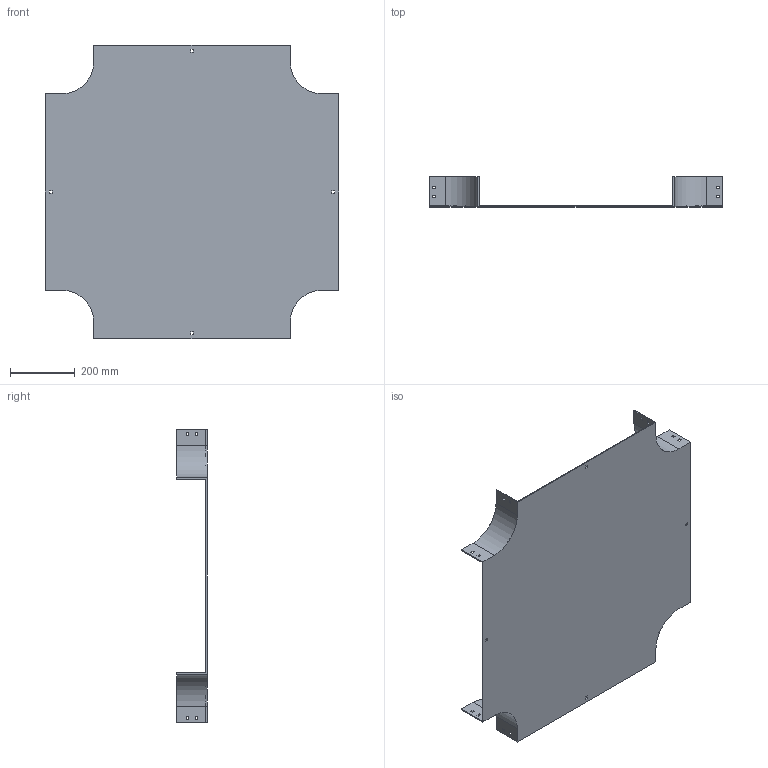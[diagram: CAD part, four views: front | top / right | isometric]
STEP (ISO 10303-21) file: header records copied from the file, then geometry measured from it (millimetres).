
FILE_DESCRIPTION (( 'STEP AP214' ), '1' );
FILE_NAME ('17B1I600.step', '2025-02-21T09:58:59', ( '' ), ( '' ), 'SwSTEP 2.0', 'SolidWorks 2023', '' );
FILE_SCHEMA (( 'AUTOMOTIVE_DESIGN' ));
Length unit declared in the file: millimetre
Products named in the file (1): 17B1I600
Bounding box: 904 x 92.5 x 904 mm (x, y, z)
Volume: 2894307.6 mm3; surface area: 1670775.2 mm2
Topology: 1 solids, 1 shells, 114 faces, 336 edges, 224 vertices
Faces by surface type: plane 106, cylinder 8
Entity records: 3839 total; most frequent: CARTESIAN_POINT 675, ORIENTED_EDGE 672, DIRECTION 582, EDGE_CURVE 336, VECTOR 320, LINE 320, VERTEX_POINT 224, EDGE_LOOP 154
